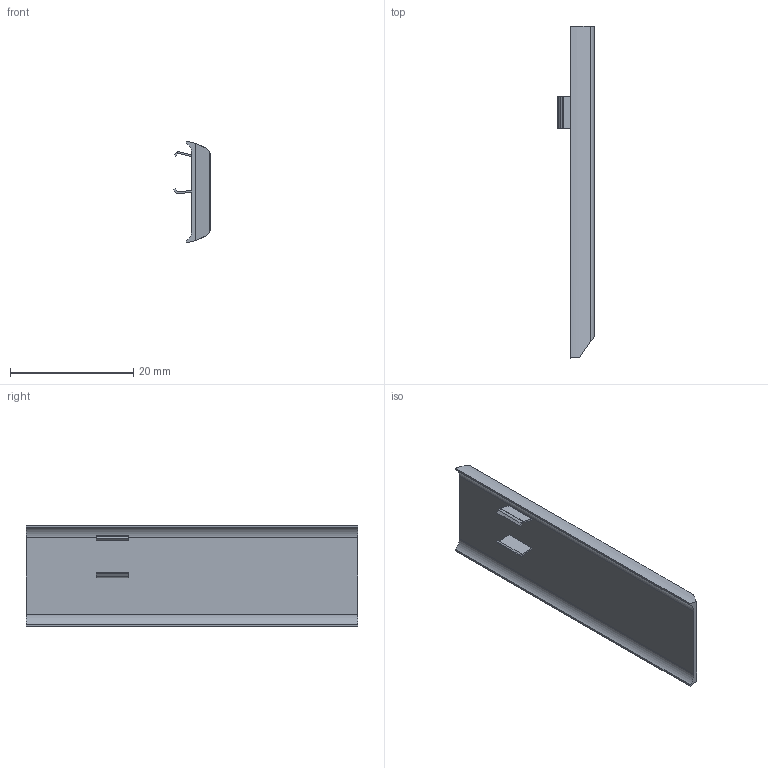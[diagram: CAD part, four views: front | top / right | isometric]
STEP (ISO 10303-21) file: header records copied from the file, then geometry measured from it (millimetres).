
FILE_DESCRIPTION (( 'STEP AP214' ), '1' );
FILE_NAME ('Abdeckkappe neutral_136555.STEP', '2010-11-16T08:40:16', ( 'grass' ), ( '' ), 'SwSTEP 2.0', 'SolidWorks 2010', '' );
FILE_SCHEMA (( 'AUTOMOTIVE_DESIGN' ));
Length unit declared in the file: millimetre
Products named in the file (1): Abdeckkappe neutral_136555
Bounding box: 5.9 x 53.8 x 16.4 mm (x, y, z)
Volume: 2427.1 mm3; surface area: 2206.1 mm2
Topology: 1 solids, 1 shells, 34 faces, 90 edges, 60 vertices
Faces by surface type: plane 21, cylinder 13
Entity records: 1100 total; most frequent: CARTESIAN_POINT 211, ORIENTED_EDGE 180, DIRECTION 176, EDGE_CURVE 90, LINE 62, VECTOR 62, VERTEX_POINT 60, AXIS2_PLACEMENT_3D 57
